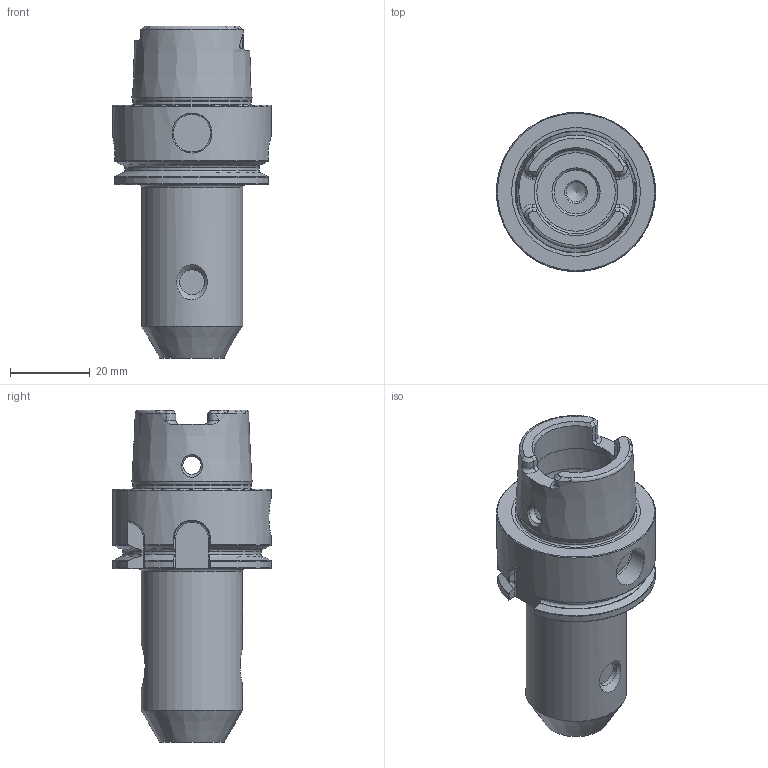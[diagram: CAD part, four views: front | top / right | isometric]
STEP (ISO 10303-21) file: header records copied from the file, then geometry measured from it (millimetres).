
FILE_DESCRIPTION(/* description */ (''),/* implementation_level */ '2;1');
FILE_NAME(/* name */ 'HSK40AEM038250_GTM.stp',/* time_stamp */ '2016-10-06T08:14:13+01:00',/* author */ (''),/* organization */ (''),/* preprocessor_version */ 'ST-DEVELOPER v15',/* originating_system */ 'SIEMENS PLM Software NX 9.0',/* authorisation */ '');
FILE_SCHEMA (('AUTOMOTIVE_DESIGN { 1 0 10303 214 3 1 1 1 }'));
Length unit declared in the file: millimetre
Products named in the file (1): HSK40AEM038250_GTM
Bounding box: 39.94 x 39.92 x 83.4 mm (x, y, z)
Volume: 41617.6 mm3; surface area: 14488 mm2
Topology: 2 solids, 2 shells, 197 faces, 518 edges, 329 vertices
Faces by surface type: plane 67, cylinder 55, torus 37, cone 32, bspline 6
Full cylindrical faces by diameter (mm): 4.6 x2, 5 x1, 6.2 x1, 7.976 x1, 9.525 x2, 10.045 x1, 10.291 x1, 11.035 x1, 12.55 x1, 21.042 x2, 25.4 x1, 25.565 x1, 29.707 x1, 39.95 x1
Entity records: 7760 total; most frequent: CARTESIAN_POINT 3355, ORIENTED_EDGE 888, DIRECTION 861, EDGE_CURVE 444, AXIS2_PLACEMENT_3D 355, VERTEX_POINT 303, EDGE_LOOP 252, ADVANCED_FACE 196
